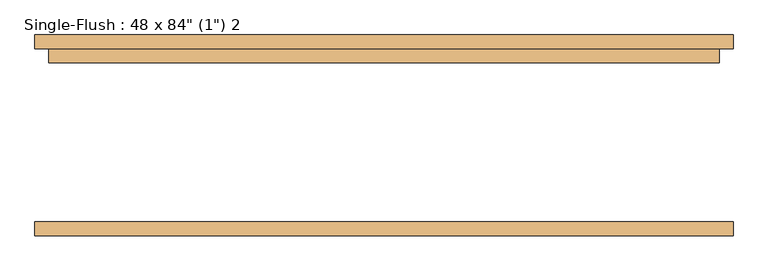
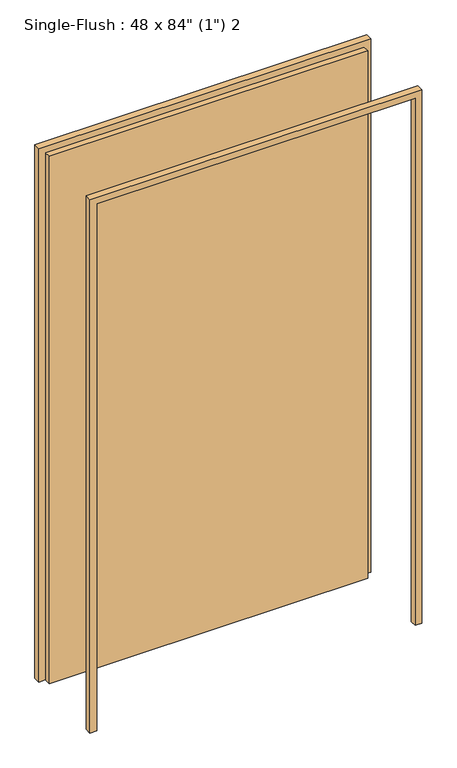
"""IFC4 building model written with IfcOpenShell, lengths in millimetres: door geometry."""

from ifc_helpers import new_model, si_unit, frame, origin, origin_with_axes, place, context, project, spatial, polyline, outline, extrude, source, transform, mapped, element, save


def door_34cfb44a(model_context):
    return source(origin(), model_context, "Body", "SweptSolid", [
        extrude(outline(polyline([(2159.0, -635.0), (0.0, -635.0), (0.0, -609.6), (2133.6, -609.6), (2133.6, 609.6), (0.0, 609.6), (0.0, 635.0), (2159.0, 635.0), (2159.0, -635.0)])), frame((0.0, 157.1625, 0.0), z_axis=(0.0, 1.0, 0.0), x_axis=(0.0, 0.0, 1.0)), (0.0, 0.0, 1.0), 25.4),
        extrude(outline(polyline([(2159.0, 635.0), (2159.0, -635.0), (0.0, -635.0), (0.0, -609.6), (2133.6, -609.6), (2133.6, 609.6), (0.0, 609.6), (0.0, 635.0), (2159.0, 635.0)])), frame((0.0, -182.5625, 0.0), z_axis=(0.0, 1.0, 0.0), x_axis=(0.0, 0.0, 1.0)), (0.0, 0.0, 1.0), 25.4),
        extrude(outline(polyline([(609.6, 131.7625), (-609.6, 131.7625), (-609.6, 157.1625), (609.6, 157.1625), (609.6, 131.7625)])), origin_with_axes(), (0.0, 0.0, 1.0), 2133.6),
    ])


if __name__ == "__main__":
    model = new_model("IFC4")
    model_context = context("Model", 3, world=origin())
    ifc_project = project(units=[si_unit("LENGTHUNIT", "METRE", prefix="MILLI")], contexts=[model_context])
    site = spatial("IfcSite", under=ifc_project)
    building = spatial("IfcBuilding", under=site)
    placement = place(None, origin())
    door_shape = door_34cfb44a(model_context)
    element("IfcDoor", 1, ObjectType="Single-Flush : 48 x 84\" (1\") 2", at=placement, inside=building, context=model_context, shape_type="MappedRepresentation", body=[
        mapped(door_shape, transform((0.0, 0.0, 0.0), x_axis=(1.0, 0.0, 0.0), y_axis=(0.0, 1.0, 0.0), z_axis=(0.0, 0.0, 1.0))),
    ])
    save(model, "model.ifc")
